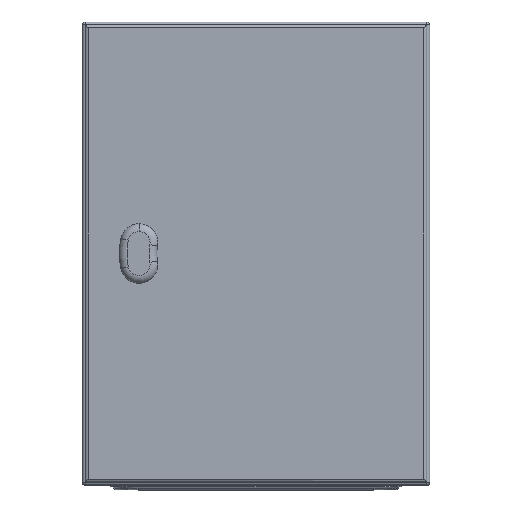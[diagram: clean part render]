
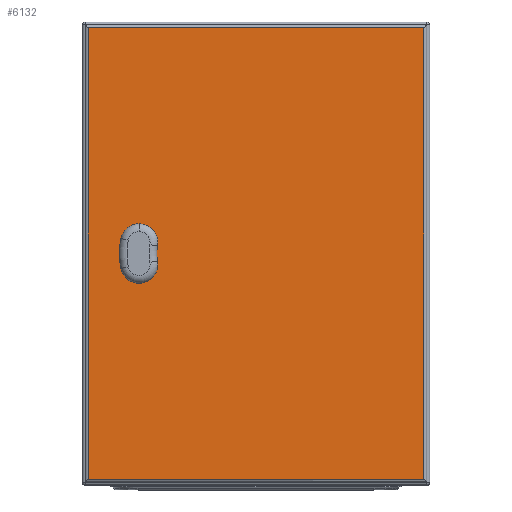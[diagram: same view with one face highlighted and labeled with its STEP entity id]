
A CAD part, top view. The second image highlights one B-rep face of the part: STEP entity #6132.
In plain terms, the highlighted planar face has unit normal (0, 0, 1) as drawn and (0, 0, -1) by its records, which use the part's own axes.
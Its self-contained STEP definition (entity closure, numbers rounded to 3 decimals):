
#1576 = VERTEX_POINT ( 'NONE', #12784 ) ;
#1623 = CARTESIAN_POINT ( 'NONE',  ( 106.056, -10.05, 0. ) ) ;
#1643 = CARTESIAN_POINT ( 'NONE',  ( 106.056, 10.05, 0. ) ) ;
#1867 = CARTESIAN_POINT ( 'NONE',  ( 147.5, 197.5, 0. ) ) ;
#2141 = CARTESIAN_POINT ( 'NONE',  ( 90.95, 5.056, 0. ) ) ;
#2466 = EDGE_CURVE ( 'NONE', #3541, #1576, #6868, .T. ) ;
#2554 = LINE ( 'NONE', #5500, #3325 ) ;
#2853 = LINE ( 'NONE', #14805, #10803 ) ;
#3325 = VECTOR ( 'NONE', #11472, 1000. ) ;
#3368 = VERTEX_POINT ( 'NONE', #16383 ) ;
#3541 = VERTEX_POINT ( 'NONE', #18620 ) ;
#3683 = CARTESIAN_POINT ( 'NONE',  ( 145., -195., 0. ) ) ;
#3986 = EDGE_CURVE ( 'NONE', #14971, #17008, #10344, .T. ) ;
#4016 = VERTEX_POINT ( 'NONE', #1623 ) ;
#4288 = EDGE_CURVE ( 'NONE', #3368, #11983, #5033, .T. ) ;
#4296 = CARTESIAN_POINT ( 'NONE',  ( 145., 195., 0. ) ) ;
#4368 = DIRECTION ( 'NONE',  ( 0., 1., 0. ) ) ;
#4849 = ORIENTED_EDGE ( 'NONE', *, *, #18328, .F. ) ;
#4987 = ORIENTED_EDGE ( 'NONE', *, *, #7378, .F. ) ;
#5033 = LINE ( 'NONE', #11012, #15147 ) ;
#5294 = CARTESIAN_POINT ( 'NONE',  ( 111.05, 5.056, 0. ) ) ;
#5411 = ORIENTED_EDGE ( 'NONE', *, *, #4288, .F. ) ;
#5500 = CARTESIAN_POINT ( 'NONE',  ( 111.05, -5.056, 0. ) ) ;
#5505 = CARTESIAN_POINT ( 'NONE',  ( 101., 0., 0. ) ) ;
#6083 = LINE ( 'NONE', #16464, #13280 ) ;
#6132 = ADVANCED_FACE ( 'NONE', ( #16761, #9500 ), #16852, .T. ) ;
#6349 = CARTESIAN_POINT ( 'NONE',  ( 111.05, -5.056, 0. ) ) ;
#6514 = EDGE_CURVE ( 'NONE', #6657, #14971, #8036, .T. ) ;
#6657 = VERTEX_POINT ( 'NONE', #12761 ) ;
#6868 = LINE ( 'NONE', #18897, #11821 ) ;
#6931 = ORIENTED_EDGE ( 'NONE', *, *, #19240, .F. ) ;
#7372 = VECTOR ( 'NONE', #4368, 1000. ) ;
#7378 = EDGE_CURVE ( 'NONE', #4016, #6657, #8013, .T. ) ;
#7435 = CARTESIAN_POINT ( 'NONE',  ( 101., 0., 0. ) ) ;
#7525 = DIRECTION ( 'NONE',  ( 1., 0., 0. ) ) ;
#7730 = ORIENTED_EDGE ( 'NONE', *, *, #6514, .F. ) ;
#8013 = LINE ( 'NONE', #15352, #18403 ) ;
#8036 = CIRCLE ( 'NONE', #14618, 11.25 ) ;
#8047 = EDGE_LOOP ( 'NONE', ( #13061, #16829, #12470, #18940 ) ) ;
#8232 = CARTESIAN_POINT ( 'NONE',  ( 101., 0., 0. ) ) ;
#8298 = VERTEX_POINT ( 'NONE', #5294 ) ;
#8327 = LINE ( 'NONE', #19005, #18631 ) ;
#8530 = DIRECTION ( 'NONE',  ( 1., 0., 0. ) ) ;
#8716 = DIRECTION ( 'NONE',  ( -1., 0., 0. ) ) ;
#8737 = VERTEX_POINT ( 'NONE', #4296 ) ;
#9500 = FACE_OUTER_BOUND ( 'NONE', #8047, .T. ) ;
#10344 = LINE ( 'NONE', #10545, #7372 ) ;
#10450 = CARTESIAN_POINT ( 'NONE',  ( 90.95, -5.056, 0. ) ) ;
#10455 = CIRCLE ( 'NONE', #12619, 11.25 ) ;
#10545 = CARTESIAN_POINT ( 'NONE',  ( 90.95, -5.056, 0. ) ) ;
#10723 = ORIENTED_EDGE ( 'NONE', *, *, #12708, .F. ) ;
#10803 = VECTOR ( 'NONE', #13340, 1000. ) ;
#11012 = CARTESIAN_POINT ( 'NONE',  ( 106.056, 10.05, 0. ) ) ;
#11344 = EDGE_CURVE ( 'NONE', #8298, #13342, #2554, .T. ) ;
#11471 = EDGE_CURVE ( 'NONE', #8737, #17508, #6083, .T. ) ;
#11472 = DIRECTION ( 'NONE',  ( 0., -1., 0. ) ) ;
#11475 = DIRECTION ( 'NONE',  ( 0., 0., -1. ) ) ;
#11821 = VECTOR ( 'NONE', #17229, 1000. ) ;
#11983 = VERTEX_POINT ( 'NONE', #1643 ) ;
#12424 = AXIS2_PLACEMENT_3D ( 'NONE', #1867, #12539, #18605 ) ;
#12470 = ORIENTED_EDGE ( 'NONE', *, *, #11471, .T. ) ;
#12539 = DIRECTION ( 'NONE',  ( 0., 0., -1. ) ) ;
#12619 = AXIS2_PLACEMENT_3D ( 'NONE', #8232, #18624, #14213 ) ;
#12640 = AXIS2_PLACEMENT_3D ( 'NONE', #7435, #16143, #7525 ) ;
#12708 = EDGE_CURVE ( 'NONE', #17008, #3368, #16619, .T. ) ;
#12761 = CARTESIAN_POINT ( 'NONE',  ( 95.944, -10.05, 0. ) ) ;
#12784 = CARTESIAN_POINT ( 'NONE',  ( -145., 195., 0. ) ) ;
#13061 = ORIENTED_EDGE ( 'NONE', *, *, #2466, .T. ) ;
#13280 = VECTOR ( 'NONE', #17821, 1000. ) ;
#13321 = DIRECTION ( 'NONE',  ( 0., 0., -1. ) ) ;
#13340 = DIRECTION ( 'NONE',  ( -1., 0., 0. ) ) ;
#13342 = VERTEX_POINT ( 'NONE', #6349 ) ;
#13645 = EDGE_LOOP ( 'NONE', ( #7730, #4987, #6931, #19336, #4849, #5411, #10723, #18983 ) ) ;
#13895 = DIRECTION ( 'NONE',  ( -1., 0., 0. ) ) ;
#13911 = CIRCLE ( 'NONE', #12640, 11.25 ) ;
#14213 = DIRECTION ( 'NONE',  ( -1., 0., 0. ) ) ;
#14618 = AXIS2_PLACEMENT_3D ( 'NONE', #16548, #13321, #8716 ) ;
#14754 = AXIS2_PLACEMENT_3D ( 'NONE', #5505, #11475, #8530 ) ;
#14805 = CARTESIAN_POINT ( 'NONE',  ( -147.5, -195., 0. ) ) ;
#14971 = VERTEX_POINT ( 'NONE', #10450 ) ;
#15147 = VECTOR ( 'NONE', #16986, 1000. ) ;
#15290 = EDGE_CURVE ( 'NONE', #17508, #3541, #2853, .T. ) ;
#15352 = CARTESIAN_POINT ( 'NONE',  ( 106.056, -10.05, 0. ) ) ;
#15555 = EDGE_CURVE ( 'NONE', #1576, #8737, #8327, .T. ) ;
#16143 = DIRECTION ( 'NONE',  ( 0., 0., -1. ) ) ;
#16383 = CARTESIAN_POINT ( 'NONE',  ( 95.944, 10.05, 0. ) ) ;
#16464 = CARTESIAN_POINT ( 'NONE',  ( 145., -197.5, 0. ) ) ;
#16548 = CARTESIAN_POINT ( 'NONE',  ( 101., 0., 0. ) ) ;
#16619 = CIRCLE ( 'NONE', #14754, 11.25 ) ;
#16761 = FACE_BOUND ( 'NONE', #13645, .T. ) ;
#16829 = ORIENTED_EDGE ( 'NONE', *, *, #15555, .T. ) ;
#16852 = PLANE ( 'NONE',  #12424 ) ;
#16986 = DIRECTION ( 'NONE',  ( 1., 0., 0. ) ) ;
#17008 = VERTEX_POINT ( 'NONE', #2141 ) ;
#17227 = DIRECTION ( 'NONE',  ( 1., 0., 0. ) ) ;
#17229 = DIRECTION ( 'NONE',  ( 0., 1., 0. ) ) ;
#17508 = VERTEX_POINT ( 'NONE', #3683 ) ;
#17821 = DIRECTION ( 'NONE',  ( 0., -1., 0. ) ) ;
#18328 = EDGE_CURVE ( 'NONE', #11983, #8298, #13911, .T. ) ;
#18403 = VECTOR ( 'NONE', #13895, 1000. ) ;
#18605 = DIRECTION ( 'NONE',  ( -1., 0., 0. ) ) ;
#18620 = CARTESIAN_POINT ( 'NONE',  ( -145., -195., 0. ) ) ;
#18624 = DIRECTION ( 'NONE',  ( 0., 0., -1. ) ) ;
#18631 = VECTOR ( 'NONE', #17227, 1000. ) ;
#18897 = CARTESIAN_POINT ( 'NONE',  ( -145., 197.5, 0. ) ) ;
#18940 = ORIENTED_EDGE ( 'NONE', *, *, #15290, .T. ) ;
#18983 = ORIENTED_EDGE ( 'NONE', *, *, #3986, .F. ) ;
#19005 = CARTESIAN_POINT ( 'NONE',  ( 147.5, 195., 0. ) ) ;
#19240 = EDGE_CURVE ( 'NONE', #13342, #4016, #10455, .T. ) ;
#19336 = ORIENTED_EDGE ( 'NONE', *, *, #11344, .F. ) ;
